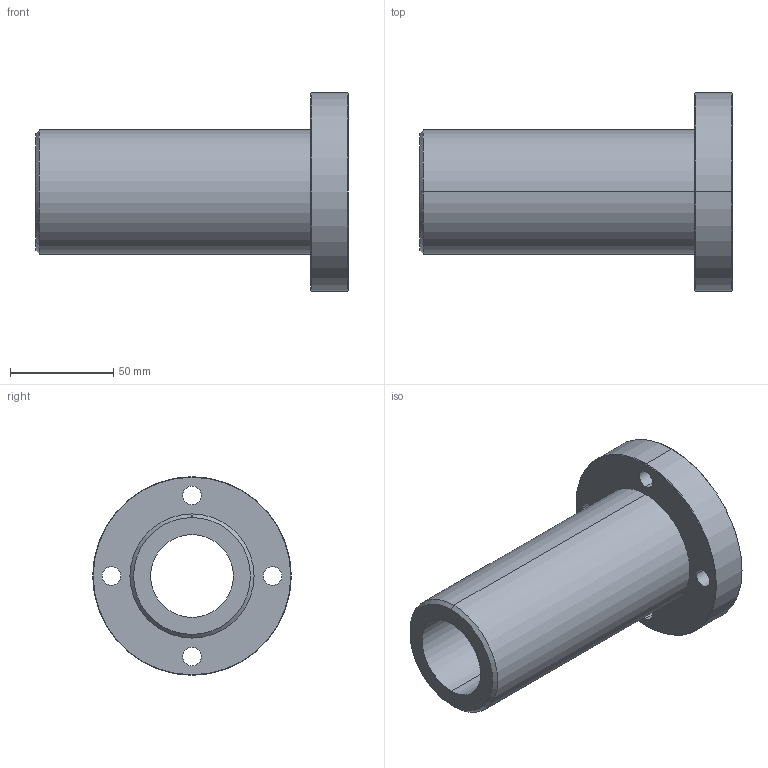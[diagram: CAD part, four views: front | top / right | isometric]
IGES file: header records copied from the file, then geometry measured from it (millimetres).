
Start section: 3D InterOp IGES (Version 21 0 1), Spatial Corp. Copyright (c) 1999-2007.
Global section: file name: DFPJR40.igs; native system: Spatial Corp.; preprocessor: 3D InterOp GENERIC/IGES 3.0; author: Noname; organization: Noname; date: 20220324.143438; units: millimetre
Bounding box: 151 x 96 x 96 mm (x, y, z)
Surface area: 63185.6 mm2 (no closed solid volume)
Topology: 0 solids, 0 shells, 35 faces, 156 edges, 156 vertices
Faces by surface type: revolution 28, extrusion 7
